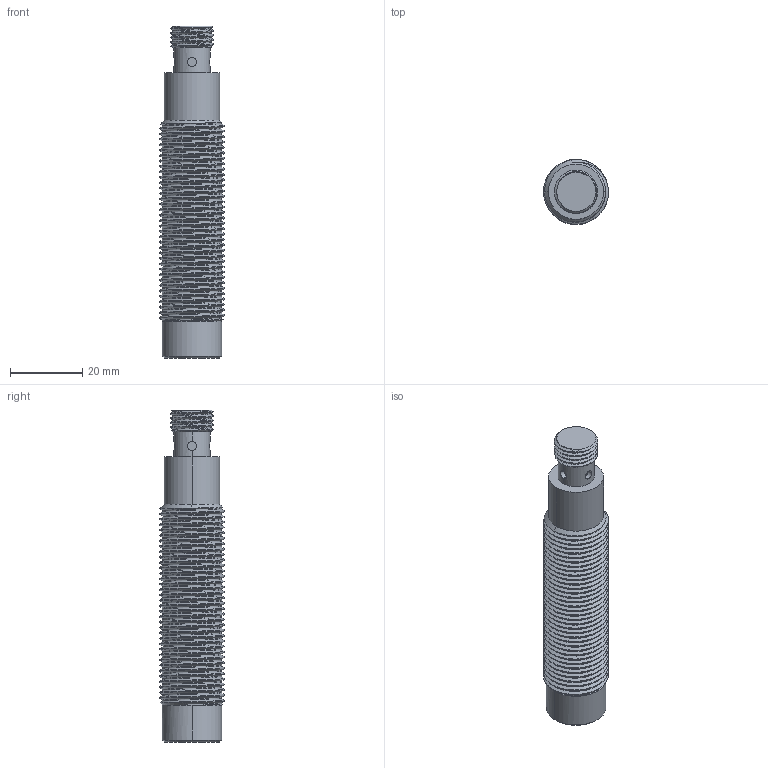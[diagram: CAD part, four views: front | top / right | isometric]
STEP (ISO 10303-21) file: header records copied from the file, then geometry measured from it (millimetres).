
FILE_DESCRIPTION (( 'STEP AP214' ), '1' );
FILE_NAME ('BAT5R22.STEP', '2025-03-11T01:58:19', ( '' ), ( '' ), 'SwSTEP 2.0', 'SolidWorks 2022', '' );
FILE_SCHEMA (( 'AUTOMOTIVE_DESIGN' ));
Length unit declared in the file: millimetre
Products named in the file (1): BAT5R22
Bounding box: 18 x 17.99 x 92 mm (x, y, z)
Volume: 18445.8 mm3; surface area: 7025 mm2
Topology: 1 solids, 1 shells, 125 faces, 342 edges, 223 vertices
Faces by surface type: cylinder 96, plane 13, cone 10, bspline 6
Entity records: 10691 total; most frequent: CARTESIAN_POINT 8068, ORIENTED_EDGE 684, DIRECTION 405, EDGE_CURVE 342, VERTEX_POINT 223, AXIS2_PLACEMENT_3D 147, EDGE_LOOP 129, ADVANCED_FACE 125
